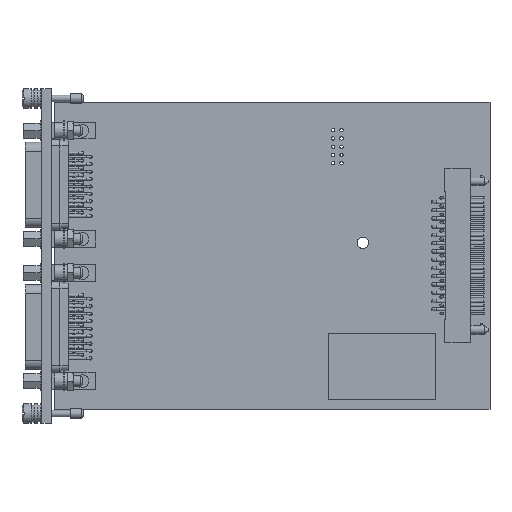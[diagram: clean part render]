
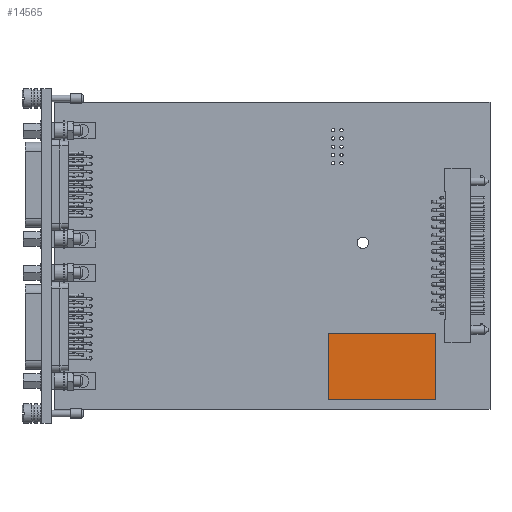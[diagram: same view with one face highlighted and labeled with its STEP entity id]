
A CAD part, top view. The second image highlights one B-rep face of the part: STEP entity #14565.
In plain terms, the highlighted planar face has unit normal (0, 0, 1).
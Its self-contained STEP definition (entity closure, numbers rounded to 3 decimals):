
#14565=ADVANCED_FACE('',(#33072),#33074,.F.);
#33072=FACE_BOUND('',#33073,.T.);
#33073=EDGE_LOOP('',(#46175,#46176,#46177,#46178));
#33074=PLANE('',#33075);
#33075=AXIS2_PLACEMENT_3D('',#33076,#33077,#33078);
#33076=CARTESIAN_POINT('',(117.29,23.29,10.7));
#33077=DIRECTION('',(0.,0.,-1.));
#33078=DIRECTION('',(-1.,0.,0.));
#46175=ORIENTED_EDGE('',*,*,#52049,.T.);
#46176=ORIENTED_EDGE('',*,*,#52055,.T.);
#46177=ORIENTED_EDGE('',*,*,#52053,.T.);
#46178=ORIENTED_EDGE('',*,*,#52051,.T.);
#52049=EDGE_CURVE('',#59887,#59885,#59888,.T.);
#52051=EDGE_CURVE('',#59890,#59887,#59891,.T.);
#52053=EDGE_CURVE('',#59893,#59890,#59894,.T.);
#52055=EDGE_CURVE('',#59885,#59893,#59896,.T.);
#59885=VERTEX_POINT('',#80798);
#59887=VERTEX_POINT('',#80802);
#59888=LINE('',#80803,#80804);
#59890=VERTEX_POINT('',#80809);
#59891=LINE('',#80810,#80811);
#59893=VERTEX_POINT('',#80816);
#59894=LINE('',#80817,#80818);
#59896=LINE('',#80823,#80824);
#80798=CARTESIAN_POINT('',(84.27,23.29,10.7));
#80802=CARTESIAN_POINT('',(117.29,23.29,10.7));
#80803=CARTESIAN_POINT('',(117.29,23.29,10.7));
#80804=VECTOR('',#80805,1.);
#80805=DIRECTION('',(-1.,0.,0.));
#80809=CARTESIAN_POINT('',(117.29,2.97,10.7));
#80810=CARTESIAN_POINT('',(117.29,2.97,10.7));
#80811=VECTOR('',#80812,1.);
#80812=DIRECTION('',(0.,1.,0.));
#80816=CARTESIAN_POINT('',(84.27,2.97,10.7));
#80817=CARTESIAN_POINT('',(84.27,2.97,10.7));
#80818=VECTOR('',#80819,1.);
#80819=DIRECTION('',(1.,0.,0.));
#80823=CARTESIAN_POINT('',(84.27,23.29,10.7));
#80824=VECTOR('',#80825,1.);
#80825=DIRECTION('',(0.,-1.,0.));
